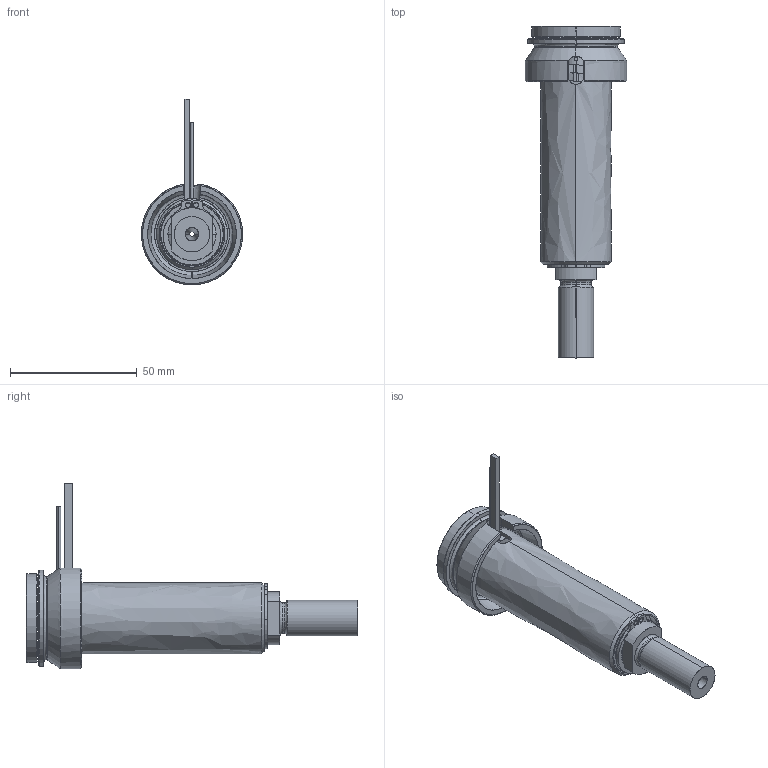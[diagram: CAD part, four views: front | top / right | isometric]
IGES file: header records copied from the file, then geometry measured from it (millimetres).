
Start section: SolidWorks IGES file using analytic representation for surfaces
Global section: file name: C:\Documents and Settings\ws-20\Desktop\TEMPORANEA\UGBE4002-S-A-P-3 [Ød-2.0 P-25 ØC-09].IGS; native system: SolidWorks 2012; preprocessor: SolidWorks 2012; author: ws-20; date: 120306.123504; units: millimetre
Bounding box: 40 x 131 x 73.3 mm (x, y, z)
Surface area: 34183.1 mm2 (no closed solid volume)
Topology: 0 solids, 0 shells, 107 faces, 1797 edges, 1797 vertices
Faces by surface type: revolution 66, bspline 41
